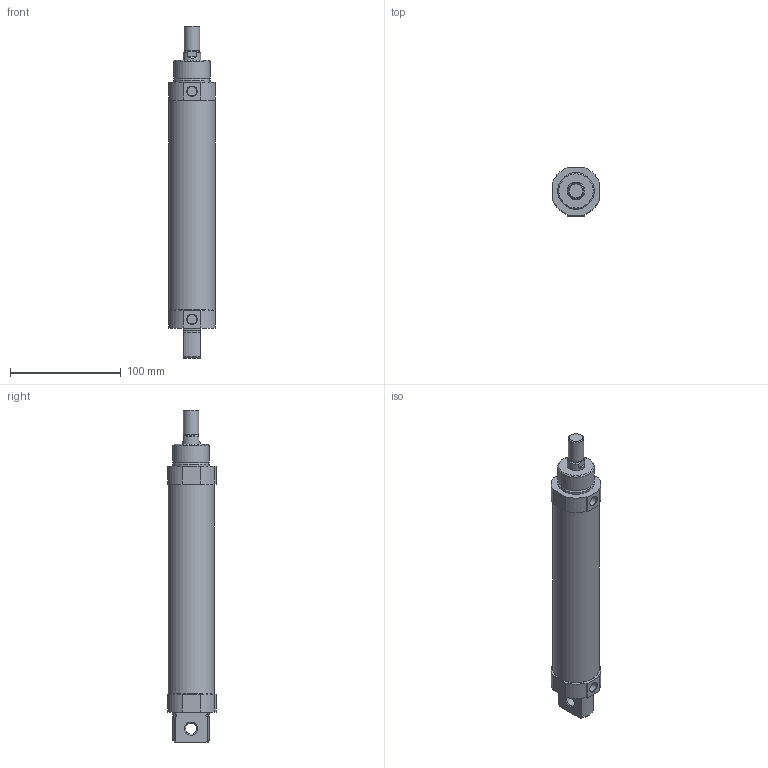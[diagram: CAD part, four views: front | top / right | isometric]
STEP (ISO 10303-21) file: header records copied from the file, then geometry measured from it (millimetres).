
FILE_DESCRIPTION((''),'2;1');
FILE_NAME('I:\3D電子目錄\氣缸\SDA\SDA40\SDA40\SDA40x150.stp','2007-08-06T10:37:13',('Administrator'),(''),'Autodesk Inventor 2008','Autodesk Inventor 2008','');
FILE_SCHEMA(('AUTOMOTIVE_DESIGN { 1 0 10303 214 1 1 1 1 }'));
Length unit declared in the file: millimetre
Products named in the file (1): SDA40X150
Bounding box: 42 x 43.5 x 300 mm (x, y, z)
Volume: 343442.9 mm3; surface area: 40006.2 mm2
Topology: 1 solids, 1 shells, 65 faces, 152 edges, 98 vertices
Faces by surface type: plane 27, cylinder 21, cone 12, torus 3, bspline 2
Full cylindrical faces by diameter (mm): 8.5 x2, 10 x1, 12.6 x1, 14 x1, 16 x1, 33 x2, 41.8 x1
Entity records: 1946 total; most frequent: CARTESIAN_POINT 486, DIRECTION 306, ORIENTED_EDGE 266, EDGE_CURVE 133, AXIS2_PLACEMENT_3D 121, VERTEX_POINT 97, EDGE_LOOP 94, FACE_OUTER_BOUND 65
